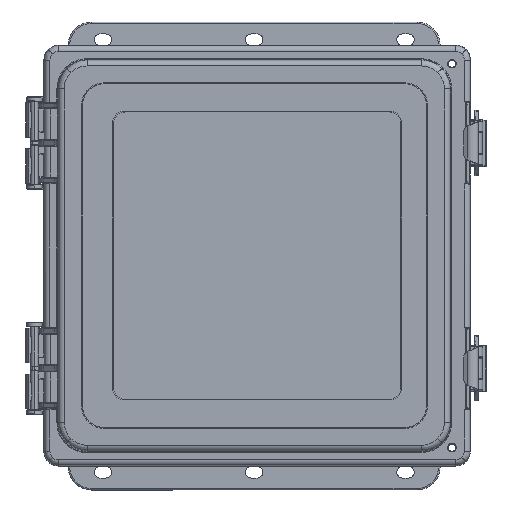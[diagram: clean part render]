
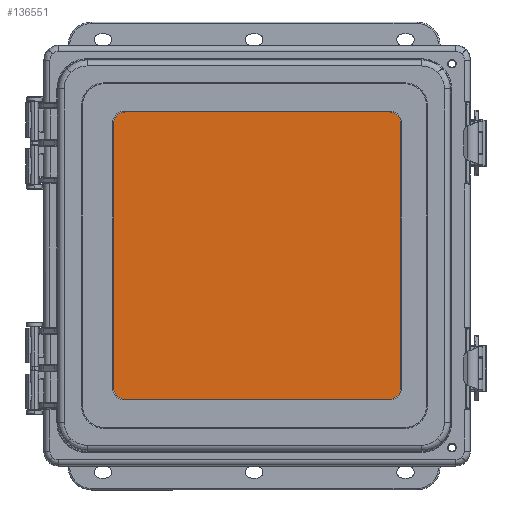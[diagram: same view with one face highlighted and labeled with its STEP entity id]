
A CAD part, top view. The second image highlights one B-rep face of the part: STEP entity #136551.
In plain terms, the highlighted planar face has unit normal (0, 0, 1) as drawn and (0, 0, -1) by its records, which use the part's own axes.
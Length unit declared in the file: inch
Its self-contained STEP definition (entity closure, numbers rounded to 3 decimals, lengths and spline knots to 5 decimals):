
#6369 = CARTESIAN_POINT ( 'NONE',  ( -3.115, -3.115, 0. ) ) ;
#8303 = AXIS2_PLACEMENT_3D ( 'NONE', #31465, #109350, #42687 ) ;
#13332 = CARTESIAN_POINT ( 'NONE',  ( -3.115, 3.115, 0. ) ) ;
#13455 = CARTESIAN_POINT ( 'NONE',  ( 3.115, 2.865, 0. ) ) ;
#17565 = DIRECTION ( 'NONE',  ( 0., 0., 1. ) ) ;
#18035 = ORIENTED_EDGE ( 'NONE', *, *, #98796, .F. ) ;
#22751 = DIRECTION ( 'NONE',  ( 0., 0., -1. ) ) ;
#25113 = CIRCLE ( 'NONE', #8303, 0.25 ) ;
#28540 = CARTESIAN_POINT ( 'NONE',  ( 2.865, 3.115, 0. ) ) ;
#29843 = CARTESIAN_POINT ( 'NONE',  ( -3.115, 2.865, 0. ) ) ;
#31465 = CARTESIAN_POINT ( 'NONE',  ( 2.865, -2.865, 0. ) ) ;
#33066 = EDGE_LOOP ( 'NONE', ( #81970, #136187, #84792, #99903, #140016, #133284, #18035, #47568 ) ) ;
#33807 = VECTOR ( 'NONE', #129102, 39.37008 ) ;
#39710 = CIRCLE ( 'NONE', #131567, 0.25 ) ;
#42687 = DIRECTION ( 'NONE',  ( 1., 0., 0. ) ) ;
#43261 = EDGE_CURVE ( 'NONE', #51732, #53671, #82618, .T. ) ;
#43816 = EDGE_CURVE ( 'NONE', #127390, #106966, #126196, .T. ) ;
#45470 = DIRECTION ( 'NONE',  ( 0., 0., -1. ) ) ;
#45896 = AXIS2_PLACEMENT_3D ( 'NONE', #112137, #45470, #123342 ) ;
#46321 = VECTOR ( 'NONE', #122259, 39.37008 ) ;
#47568 = ORIENTED_EDGE ( 'NONE', *, *, #105514, .T. ) ;
#48081 = DIRECTION ( 'NONE',  ( 0., 0., -1. ) ) ;
#51732 = VERTEX_POINT ( 'NONE', #29843 ) ;
#53089 = VECTOR ( 'NONE', #102445, 39.37008 ) ;
#53671 = VERTEX_POINT ( 'NONE', #86307 ) ;
#58168 = EDGE_CURVE ( 'NONE', #127390, #137740, #25113, .T. ) ;
#58831 = CARTESIAN_POINT ( 'NONE',  ( 2.865, -3.115, 0. ) ) ;
#62068 = AXIS2_PLACEMENT_3D ( 'NONE', #6369, #17565, #95457 ) ;
#62693 = AXIS2_PLACEMENT_3D ( 'NONE', #114735, #48081, #125987 ) ;
#70679 = VECTOR ( 'NONE', #99067, 39.37008 ) ;
#70718 = EDGE_CURVE ( 'NONE', #71131, #53671, #121758, .T. ) ;
#71131 = VERTEX_POINT ( 'NONE', #79338 ) ;
#73093 = PLANE ( 'NONE',  #62068 ) ;
#79338 = CARTESIAN_POINT ( 'NONE',  ( -2.865, -3.115, 0. ) ) ;
#81970 = ORIENTED_EDGE ( 'NONE', *, *, #43816, .F. ) ;
#82618 = LINE ( 'NONE', #13332, #53089 ) ;
#84792 = ORIENTED_EDGE ( 'NONE', *, *, #129487, .F. ) ;
#86307 = CARTESIAN_POINT ( 'NONE',  ( -3.115, -2.865, 0. ) ) ;
#88566 = CARTESIAN_POINT ( 'NONE',  ( -3.115, -3.115, 0. ) ) ;
#89272 = CIRCLE ( 'NONE', #62693, 0.25 ) ;
#89375 = CARTESIAN_POINT ( 'NONE',  ( 2.865, 2.865, 0. ) ) ;
#95457 = DIRECTION ( 'NONE',  ( 1., 0., 0. ) ) ;
#98796 = EDGE_CURVE ( 'NONE', #134877, #143518, #126482, .T. ) ;
#99067 = DIRECTION ( 'NONE',  ( -1., 0., 0. ) ) ;
#99903 = ORIENTED_EDGE ( 'NONE', *, *, #70718, .T. ) ;
#100624 = DIRECTION ( 'NONE',  ( 1., 0., 0. ) ) ;
#102445 = DIRECTION ( 'NONE',  ( 0., -1., 0. ) ) ;
#105514 = EDGE_CURVE ( 'NONE', #134877, #106966, #39710, .T. ) ;
#106966 = VERTEX_POINT ( 'NONE', #13455 ) ;
#109033 = LINE ( 'NONE', #88566, #46321 ) ;
#109350 = DIRECTION ( 'NONE',  ( 0., 0., -1. ) ) ;
#110475 = FACE_OUTER_BOUND ( 'NONE', #33066, .T. ) ;
#112137 = CARTESIAN_POINT ( 'NONE',  ( -2.865, -2.865, 0. ) ) ;
#113244 = CARTESIAN_POINT ( 'NONE',  ( 3.115, -2.865, 0. ) ) ;
#114735 = CARTESIAN_POINT ( 'NONE',  ( -2.865, 2.865, 0. ) ) ;
#117860 = CARTESIAN_POINT ( 'NONE',  ( 3.115, 3.115, 0. ) ) ;
#121758 = CIRCLE ( 'NONE', #45896, 0.25 ) ;
#122259 = DIRECTION ( 'NONE',  ( 1., 0., 0. ) ) ;
#122453 = CARTESIAN_POINT ( 'NONE',  ( -3.115, 3.115, 0. ) ) ;
#123342 = DIRECTION ( 'NONE',  ( 1., 0., 0. ) ) ;
#125987 = DIRECTION ( 'NONE',  ( 1., 0., 0. ) ) ;
#126196 = LINE ( 'NONE', #117860, #33807 ) ;
#126482 = LINE ( 'NONE', #122453, #70679 ) ;
#127390 = VERTEX_POINT ( 'NONE', #113244 ) ;
#129102 = DIRECTION ( 'NONE',  ( 0., 1., 0. ) ) ;
#129487 = EDGE_CURVE ( 'NONE', #71131, #137740, #109033, .T. ) ;
#131567 = AXIS2_PLACEMENT_3D ( 'NONE', #89375, #22751, #100624 ) ;
#133226 = EDGE_CURVE ( 'NONE', #51732, #143518, #89272, .T. ) ;
#133284 = ORIENTED_EDGE ( 'NONE', *, *, #133226, .T. ) ;
#134877 = VERTEX_POINT ( 'NONE', #28540 ) ;
#136187 = ORIENTED_EDGE ( 'NONE', *, *, #58168, .T. ) ;
#136551 = ADVANCED_FACE ( 'NONE', ( #110475 ), #73093, .F. ) ;
#136752 = CARTESIAN_POINT ( 'NONE',  ( -2.865, 3.115, 0. ) ) ;
#137740 = VERTEX_POINT ( 'NONE', #58831 ) ;
#140016 = ORIENTED_EDGE ( 'NONE', *, *, #43261, .F. ) ;
#143518 = VERTEX_POINT ( 'NONE', #136752 ) ;
